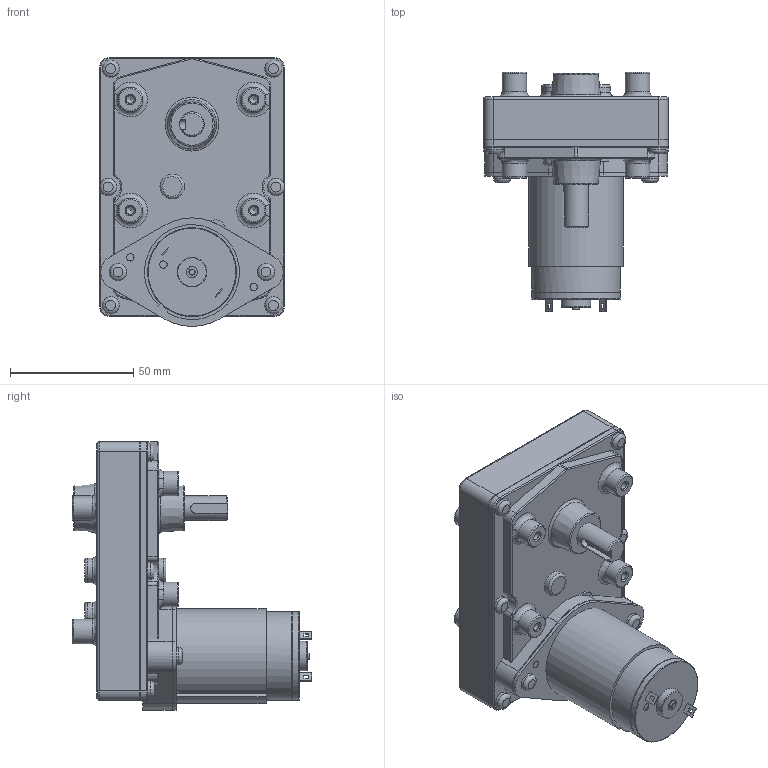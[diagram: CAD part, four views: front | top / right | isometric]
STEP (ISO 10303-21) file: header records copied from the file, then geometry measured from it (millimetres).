
FILE_DESCRIPTION((''),'2;1');
FILE_NAME('C:\Documents and Settings\SSEGAWA\デスクトップ\TP-3850A-LG.STP','2013-07-29T15:01:32',('SSEGAWA'),(''),'Autodesk Inventor 2010','Autodesk Inventor 2010','');
FILE_SCHEMA(('CONFIG_CONTROL_DESIGN'));
Length unit declared in the file: millimetre
Products named in the file (1): tp_3850a_lg_Shrinkwrap_1
Bounding box: 75 x 97.1 x 109 mm (x, y, z)
Volume: 275404.3 mm3; surface area: 38138.8 mm2
Topology: 1 solids, 5 shells, 297 faces, 681 edges, 424 vertices
Faces by surface type: plane 102, cylinder 85, bspline 56, torus 40, cone 14
Full cylindrical faces by diameter (mm): 2.5 x1, 3 x3, 4.5 x1, 7 x4, 9 x2, 10 x11, 12 x1, 12.2 x1, 15 x1, 35.6 x1, 36 x2
Entity records: 9066 total; most frequent: CARTESIAN_POINT 2620, DIRECTION 1309, ORIENTED_EDGE 1102, EDGE_CURVE 551, AXIS2_PLACEMENT_3D 532, EDGE_LOOP 435, VERTEX_POINT 394, STYLED_ITEM 298
